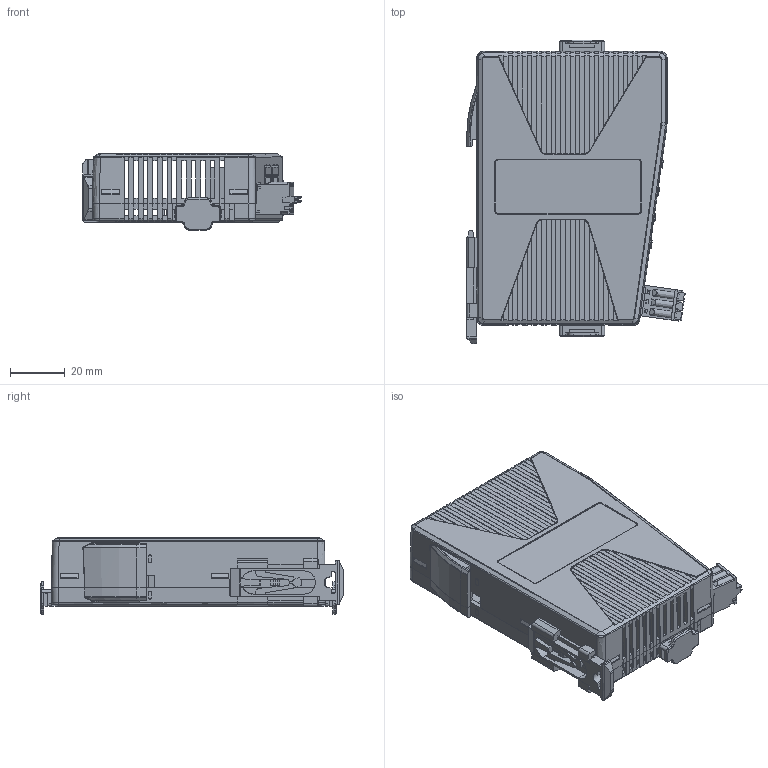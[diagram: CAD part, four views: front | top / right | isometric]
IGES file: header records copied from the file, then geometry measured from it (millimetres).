
Start section: SolidWorks IGES file using analytic representation for surfaces
Bounding box: 79.77 x 110.92 x 27.77 mm (x, y, z)
Surface area: 58092 mm2 (no closed solid volume)
Topology: 0 solids, 0 shells, 3646 faces, 25020 edges, 25014 vertices
Faces by surface type: bspline 2809, revolution 837
